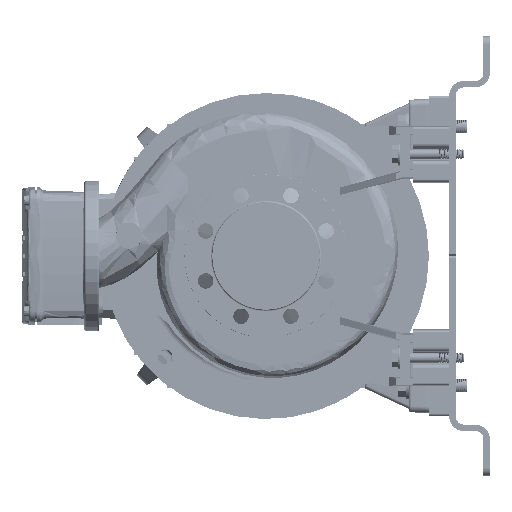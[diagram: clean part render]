
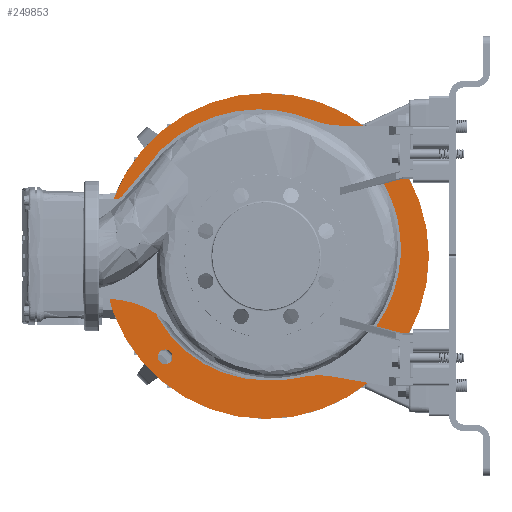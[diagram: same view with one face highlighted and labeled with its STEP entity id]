
A CAD part, left-side view. The second image highlights one B-rep face of the part: STEP entity #249853.
In plain terms, the highlighted planar face has unit normal (-1, 0, 0).
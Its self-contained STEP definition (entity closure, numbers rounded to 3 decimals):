
#1893 = CIRCLE ( 'NONE', #198796, 152.679 ) ;
#6755 = EDGE_CURVE ( 'NONE', #230550, #68590, #34933, .T. ) ;
#11795 = AXIS2_PLACEMENT_3D ( 'NONE', #78949, #60719, #35584 ) ;
#15395 = DIRECTION ( 'NONE',  ( -1., 0., 0. ) ) ;
#20409 = VERTEX_POINT ( 'NONE', #122872 ) ;
#20550 = DIRECTION ( 'NONE',  ( 0., 0., 1. ) ) ;
#24063 = CARTESIAN_POINT ( 'NONE',  ( 224., 123.745, 114.745 ) ) ;
#24235 = EDGE_CURVE ( 'NONE', #174327, #20409, #274364, .T. ) ;
#26078 = ORIENTED_EDGE ( 'NONE', *, *, #67141, .T. ) ;
#27353 = CARTESIAN_POINT ( 'NONE',  ( 224., 123.745, 123.745 ) ) ;
#30876 = PLANE ( 'NONE',  #140170 ) ;
#31401 = AXIS2_PLACEMENT_3D ( 'NONE', #197722, #91143, #176683 ) ;
#31994 = ORIENTED_EDGE ( 'NONE', *, *, #196904, .T. ) ;
#32409 = EDGE_CURVE ( 'NONE', #64737, #227637, #141020, .T. ) ;
#34188 = ORIENTED_EDGE ( 'NONE', *, *, #61433, .T. ) ;
#34933 = CIRCLE ( 'NONE', #209612, 9. ) ;
#35584 = DIRECTION ( 'NONE',  ( 0., 0., 1. ) ) ;
#41774 = CARTESIAN_POINT ( 'NONE',  ( 224., 0.001, 0.002 ) ) ;
#42077 = CARTESIAN_POINT ( 'NONE',  ( 224., -134.997, 0.002 ) ) ;
#42285 = DIRECTION ( 'NONE',  ( 0., 0., 1. ) ) ;
#43516 = VERTEX_POINT ( 'NONE', #213505 ) ;
#43552 = CIRCLE ( 'NONE', #83752, 9. ) ;
#45013 = CARTESIAN_POINT ( 'NONE',  ( 224., 123.745, -114.742 ) ) ;
#48236 = EDGE_LOOP ( 'NONE', ( #177371, #57996 ) ) ;
#57996 = ORIENTED_EDGE ( 'NONE', *, *, #72041, .T. ) ;
#58863 = EDGE_LOOP ( 'NONE', ( #60046, #26078 ) ) ;
#60046 = ORIENTED_EDGE ( 'NONE', *, *, #6755, .T. ) ;
#60719 = DIRECTION ( 'NONE',  ( 1., 0., 0. ) ) ;
#61433 = EDGE_CURVE ( 'NONE', #230757, #132964, #96721, .T. ) ;
#64737 = VERTEX_POINT ( 'NONE', #238324 ) ;
#65757 = ORIENTED_EDGE ( 'NONE', *, *, #171656, .T. ) ;
#66210 = DIRECTION ( 'NONE',  ( 0., 0., 1. ) ) ;
#66601 = DIRECTION ( 'NONE',  ( 1., 0., 0. ) ) ;
#67141 = EDGE_CURVE ( 'NONE', #68590, #230550, #148591, .T. ) ;
#67501 = CARTESIAN_POINT ( 'NONE',  ( 224., 0.001, 0.002 ) ) ;
#68590 = VERTEX_POINT ( 'NONE', #118127 ) ;
#71127 = AXIS2_PLACEMENT_3D ( 'NONE', #71446, #214580, #131799 ) ;
#71446 = CARTESIAN_POINT ( 'NONE',  ( 224., -123.743, 123.745 ) ) ;
#72041 = EDGE_CURVE ( 'NONE', #227637, #64737, #140960, .T. ) ;
#72853 = CARTESIAN_POINT ( 'NONE',  ( 224., -123.743, 114.745 ) ) ;
#73192 = DIRECTION ( 'NONE',  ( 1., 0., 0. ) ) ;
#78467 = EDGE_CURVE ( 'NONE', #209584, #261661, #207568, .T. ) ;
#78949 = CARTESIAN_POINT ( 'NONE',  ( 224., 123.745, 123.745 ) ) ;
#83752 = AXIS2_PLACEMENT_3D ( 'NONE', #109664, #87251, #66210 ) ;
#86466 = ORIENTED_EDGE ( 'NONE', *, *, #78467, .F. ) ;
#87251 = DIRECTION ( 'NONE',  ( 1., 0., 0. ) ) ;
#89010 = DIRECTION ( 'NONE',  ( 0., 0., 1. ) ) ;
#89297 = DIRECTION ( 'NONE',  ( 0., 0., -1. ) ) ;
#91143 = DIRECTION ( 'NONE',  ( 1., 0., 0. ) ) ;
#91341 = CARTESIAN_POINT ( 'NONE',  ( 224., 0.001, -199.998 ) ) ;
#95230 = FACE_OUTER_BOUND ( 'NONE', #110572, .T. ) ;
#96721 = CIRCLE ( 'NONE', #11795, 9. ) ;
#101730 = EDGE_LOOP ( 'NONE', ( #193632, #65757 ) ) ;
#101808 = AXIS2_PLACEMENT_3D ( 'NONE', #27353, #66601, #89010 ) ;
#103790 = AXIS2_PLACEMENT_3D ( 'NONE', #108713, #212566, #20550 ) ;
#105188 = AXIS2_PLACEMENT_3D ( 'NONE', #265257, #73192, #140423 ) ;
#105205 = VERTEX_POINT ( 'NONE', #172985 ) ;
#105334 = CARTESIAN_POINT ( 'NONE',  ( 224., -123.743, -123.742 ) ) ;
#108197 = DIRECTION ( 'NONE',  ( 0., 0., -1. ) ) ;
#108713 = CARTESIAN_POINT ( 'NONE',  ( 224., -123.743, -123.742 ) ) ;
#109664 = CARTESIAN_POINT ( 'NONE',  ( 224., -123.743, 123.745 ) ) ;
#110572 = EDGE_LOOP ( 'NONE', ( #137859, #86466 ) ) ;
#114940 = CARTESIAN_POINT ( 'NONE',  ( 224., 123.745, 132.745 ) ) ;
#116302 = CARTESIAN_POINT ( 'NONE',  ( 224., 200.001, 0.002 ) ) ;
#118127 = CARTESIAN_POINT ( 'NONE',  ( 224., -123.743, -114.742 ) ) ;
#120421 = DIRECTION ( 'NONE',  ( 0., 0., 1. ) ) ;
#122872 = CARTESIAN_POINT ( 'NONE',  ( 224., -151.791, -16.437 ) ) ;
#126704 = CIRCLE ( 'NONE', #229796, 152.679 ) ;
#129063 = EDGE_CURVE ( 'NONE', #261661, #209584, #147747, .T. ) ;
#131799 = DIRECTION ( 'NONE',  ( 0., 0., 1. ) ) ;
#132964 = VERTEX_POINT ( 'NONE', #24063 ) ;
#134733 = DIRECTION ( 'NONE',  ( 0., 0., -1. ) ) ;
#137859 = ORIENTED_EDGE ( 'NONE', *, *, #129063, .F. ) ;
#138666 = FACE_BOUND ( 'NONE', #48236, .T. ) ;
#140170 = AXIS2_PLACEMENT_3D ( 'NONE', #116302, #15395, #120421 ) ;
#140423 = DIRECTION ( 'NONE',  ( 0., 0., 1. ) ) ;
#140960 = CIRCLE ( 'NONE', #105188, 9. ) ;
#141020 = CIRCLE ( 'NONE', #203949, 9. ) ;
#142999 = DIRECTION ( 'NONE',  ( 0., 0., 1. ) ) ;
#144376 = DIRECTION ( 'NONE',  ( 1., 0., 0. ) ) ;
#145671 = CARTESIAN_POINT ( 'NONE',  ( 224., 0.001, -152.678 ) ) ;
#147747 = CIRCLE ( 'NONE', #31401, 200. ) ;
#148591 = CIRCLE ( 'NONE', #103790, 9. ) ;
#152974 = DIRECTION ( 'NONE',  ( 1., 0., 0. ) ) ;
#153203 = CARTESIAN_POINT ( 'NONE',  ( 224., 0.001, 200.002 ) ) ;
#153423 = AXIS2_PLACEMENT_3D ( 'NONE', #42077, #144376, #142999 ) ;
#155596 = CIRCLE ( 'NONE', #101808, 9. ) ;
#159733 = FACE_BOUND ( 'NONE', #58863, .T. ) ;
#160588 = EDGE_CURVE ( 'NONE', #105205, #174327, #229205, .T. ) ;
#167293 = AXIS2_PLACEMENT_3D ( 'NONE', #172701, #214785, #108197 ) ;
#168546 = VERTEX_POINT ( 'NONE', #72853 ) ;
#170998 = EDGE_LOOP ( 'NONE', ( #228734, #34188 ) ) ;
#171656 = EDGE_CURVE ( 'NONE', #43516, #168546, #43552, .T. ) ;
#172701 = CARTESIAN_POINT ( 'NONE',  ( 224., 0.001, 0.002 ) ) ;
#172985 = CARTESIAN_POINT ( 'NONE',  ( 224., 0.001, 152.681 ) ) ;
#174211 = CIRCLE ( 'NONE', #71127, 9. ) ;
#174327 = VERTEX_POINT ( 'NONE', #240856 ) ;
#176683 = DIRECTION ( 'NONE',  ( 0., 0., -1. ) ) ;
#177371 = ORIENTED_EDGE ( 'NONE', *, *, #32409, .T. ) ;
#184556 = AXIS2_PLACEMENT_3D ( 'NONE', #41774, #275861, #89297 ) ;
#184718 = EDGE_CURVE ( 'NONE', #168546, #43516, #174211, .T. ) ;
#184922 = FACE_BOUND ( 'NONE', #170998, .T. ) ;
#186319 = FACE_BOUND ( 'NONE', #101730, .T. ) ;
#190244 = CARTESIAN_POINT ( 'NONE',  ( 224., 0.001, 0.002 ) ) ;
#192243 = DIRECTION ( 'NONE',  ( 1., 0., 0. ) ) ;
#193632 = ORIENTED_EDGE ( 'NONE', *, *, #184718, .T. ) ;
#195544 = EDGE_CURVE ( 'NONE', #20409, #231926, #126704, .T. ) ;
#196904 = EDGE_CURVE ( 'NONE', #231926, #105205, #1893, .T. ) ;
#197722 = CARTESIAN_POINT ( 'NONE',  ( 224., 0.001, 0.002 ) ) ;
#198796 = AXIS2_PLACEMENT_3D ( 'NONE', #67501, #152974, #134733 ) ;
#203591 = CARTESIAN_POINT ( 'NONE',  ( 224., -123.743, -132.742 ) ) ;
#203949 = AXIS2_PLACEMENT_3D ( 'NONE', #237056, #235669, #238440 ) ;
#207568 = CIRCLE ( 'NONE', #167293, 200. ) ;
#209584 = VERTEX_POINT ( 'NONE', #153203 ) ;
#209612 = AXIS2_PLACEMENT_3D ( 'NONE', #105334, #192243, #42285 ) ;
#212566 = DIRECTION ( 'NONE',  ( 1., 0., 0. ) ) ;
#212973 = EDGE_LOOP ( 'NONE', ( #255991, #31994, #263985, #276043 ) ) ;
#213505 = CARTESIAN_POINT ( 'NONE',  ( 224., -123.743, 132.745 ) ) ;
#214580 = DIRECTION ( 'NONE',  ( 1., 0., 0. ) ) ;
#214785 = DIRECTION ( 'NONE',  ( 1., 0., 0. ) ) ;
#227637 = VERTEX_POINT ( 'NONE', #45013 ) ;
#228734 = ORIENTED_EDGE ( 'NONE', *, *, #276929, .T. ) ;
#229205 = CIRCLE ( 'NONE', #184556, 152.679 ) ;
#229796 = AXIS2_PLACEMENT_3D ( 'NONE', #190244, #274354, #233664 ) ;
#230550 = VERTEX_POINT ( 'NONE', #203591 ) ;
#230757 = VERTEX_POINT ( 'NONE', #114940 ) ;
#231926 = VERTEX_POINT ( 'NONE', #145671 ) ;
#233664 = DIRECTION ( 'NONE',  ( 0., 0., -1. ) ) ;
#235669 = DIRECTION ( 'NONE',  ( 1., 0., 0. ) ) ;
#237056 = CARTESIAN_POINT ( 'NONE',  ( 224., 123.745, -123.742 ) ) ;
#238324 = CARTESIAN_POINT ( 'NONE',  ( 224., 123.745, -132.742 ) ) ;
#238440 = DIRECTION ( 'NONE',  ( 0., 0., 1. ) ) ;
#240856 = CARTESIAN_POINT ( 'NONE',  ( 224., -151.791, 16.44 ) ) ;
#245275 = FACE_BOUND ( 'NONE', #212973, .T. ) ;
#249853 = ADVANCED_FACE ( 'NONE', ( #95230, #138666, #184922, #186319, #159733, #245275 ), #30876, .T. ) ;
#255991 = ORIENTED_EDGE ( 'NONE', *, *, #195544, .T. ) ;
#261661 = VERTEX_POINT ( 'NONE', #91341 ) ;
#263985 = ORIENTED_EDGE ( 'NONE', *, *, #160588, .T. ) ;
#265257 = CARTESIAN_POINT ( 'NONE',  ( 224., 123.745, -123.742 ) ) ;
#274354 = DIRECTION ( 'NONE',  ( 1., 0., 0. ) ) ;
#274364 = CIRCLE ( 'NONE', #153423, 23.5 ) ;
#275861 = DIRECTION ( 'NONE',  ( 1., 0., 0. ) ) ;
#276043 = ORIENTED_EDGE ( 'NONE', *, *, #24235, .T. ) ;
#276929 = EDGE_CURVE ( 'NONE', #132964, #230757, #155596, .T. ) ;
